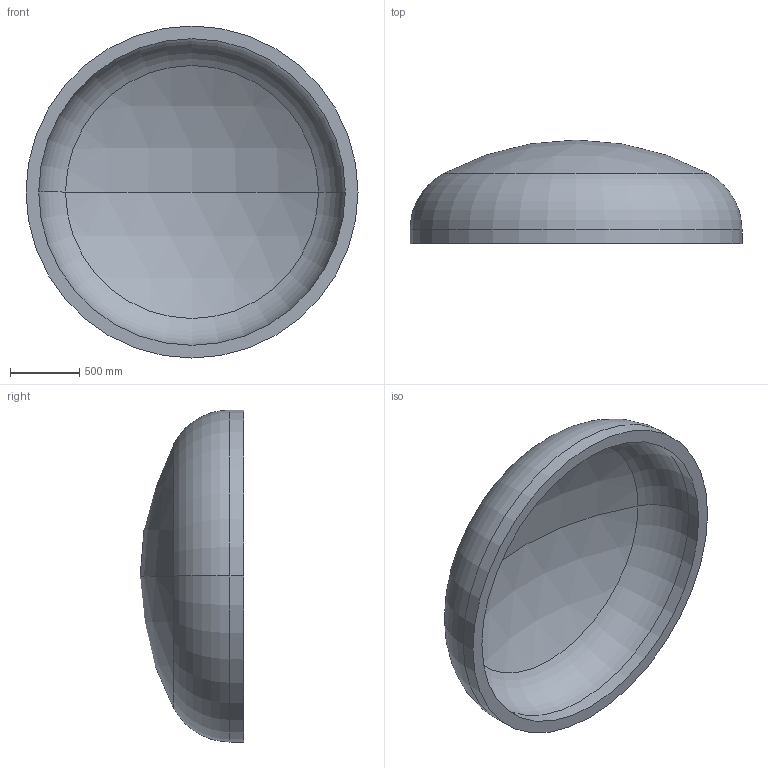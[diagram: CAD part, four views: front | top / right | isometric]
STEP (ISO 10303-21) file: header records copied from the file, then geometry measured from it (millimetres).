
FILE_DESCRIPTION (( 'STEP AP203' ), '1' );
FILE_NAME ('DIN 28013 Korbbogenform_-_Boden DIN 28013 - 2400 x 100 - I - s=92.step', '2016-07-01T15:39:44', ( '' ), ( '' ), 'SwSTEP 2.0', 'SolidWorks 2013', '' );
FILE_SCHEMA (( 'CONFIG_CONTROL_DESIGN' ));
Length unit declared in the file: millimetre
Products named in the file (1): DIN 28013 Korbbogenform_-_Boden DIN 28013 - 2400 x 100 - I - s=92
Bounding box: 2400 x 748.97 x 2400 mm (x, y, z)
Volume: 615287766.3 mm3; surface area: 14060617.2 mm2
Topology: 1 solids, 1 shells, 13 faces, 24 edges, 14 vertices
Faces by surface type: torus 4, cylinder 4, sphere 4, plane 1
Entity records: 407 total; most frequent: DIRECTION 72, CARTESIAN_POINT 52, ORIENTED_EDGE 48, AXIS2_PLACEMENT_3D 34, EDGE_CURVE 24, CIRCLE 20, VERTEX_POINT 14, EDGE_LOOP 14
